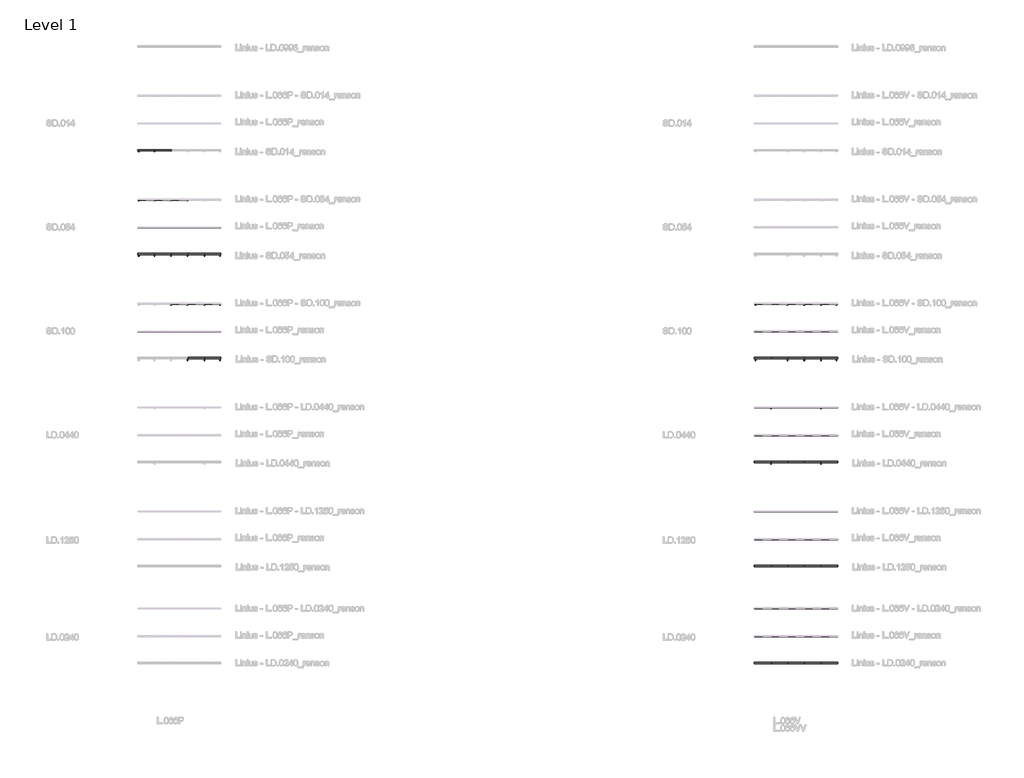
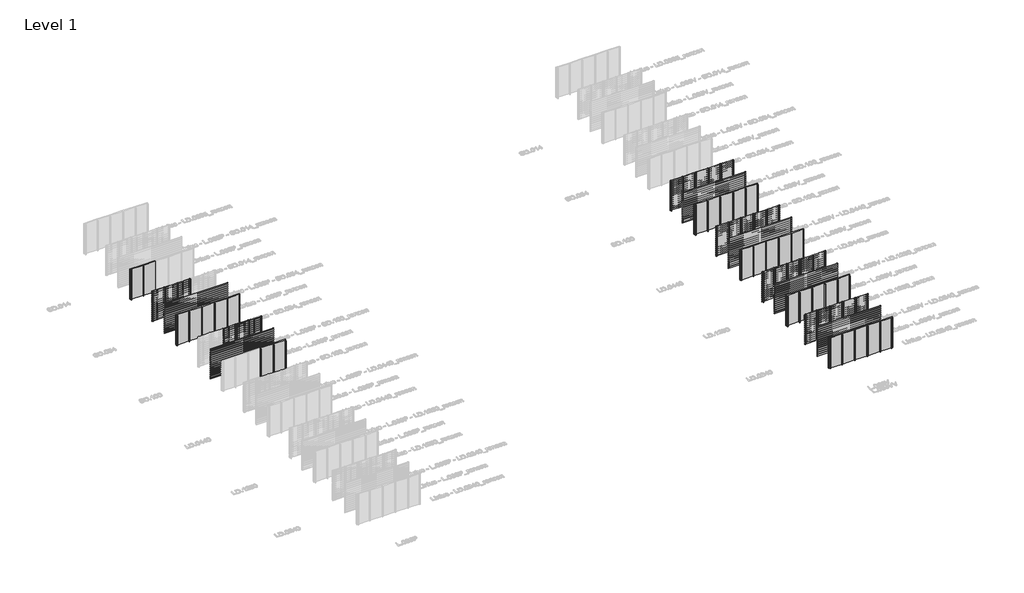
# One storey, part 7 of 540: 67 members, 61 plates.
"""IFC4 building model written with IfcOpenShell, lengths in millimetres."""

from ifc_helpers import new_model, si_unit, origin, origin_with_axes, place, context, project, spatial, polyline, outline, extrude, transform, mapped, element, save
from components import rectangular_mullion_3facce28, rectangular_mullion_6cf2c509, rectangular_mullion_8b77bd57, rectangular_mullion_2c867e25, rectangular_mullion_7803f5c4, rectangular_mullion_82152e2f, rectangular_mullion_2b84ad7e, rectangular_mullion_9b796d85, rectangular_mullion_dfb17e98, rectangular_mullion_6132f1f1, rectangular_mullion_8f153c19, rectangular_mullion_5b30f3fd, rectangular_mullion_5e0e8e0a, rectangular_mullion_d2d38772, rectangular_mullion_efb80f74, rectangular_mullion_aaa1fb1b, rectangular_mullion_ea9d012c, empty_system_panel_empty_aabbdda4

model = new_model("IFC4")

# Units and contexts
model_context = context("Model", 3, world=origin())
ifc_project = project(units=[si_unit("LENGTHUNIT", "METRE", prefix="MILLI")], contexts=[model_context])

# Site, building, storey
site = spatial("IfcSite", under=ifc_project)
building = spatial("IfcBuilding", under=site)
storey = spatial("IfcBuildingStorey", under=building, Name="Level 1", Elevation=0.0)

# Members
placement = place(None, origin())
rectangular_mullion_shape = rectangular_mullion_3facce28(model_context)
element("IfcMember", 1, ObjectType="Rectangular Mullion : SD.014_renson", at=placement, inside=storey, context=model_context, shape_type="MappedRepresentation", body=[
    mapped(rectangular_mullion_shape, transform((135166.6208099, 39983.0540136, 0.0), x_axis=(-1.0, 0.0, 0.0), y_axis=(0.0, 1.0, 0.0), z_axis=(0.0, 0.0, -1.0))),
])
rectangular_mullion_2_shape = rectangular_mullion_6cf2c509(model_context)
element("IfcMember", 2, ObjectType="Rectangular Mullion : SD.054_renson", at=placement, inside=storey, context=model_context, shape_type="MappedRepresentation", body=[
    mapped(rectangular_mullion_2_shape, transform((137566.6208096, 36483.0540136, 0.0), x_axis=(-1.0, 0.0, 0.0), y_axis=(0.0, 1.0, 0.0), z_axis=(0.0, 0.0, -1.0))),
])
element("IfcMember", 3, ObjectType="Rectangular Mullion : SD.054_renson", at=placement, inside=storey, context=model_context, shape_type="MappedRepresentation", body=[
    mapped(rectangular_mullion_2_shape, transform((136366.6208097, 36483.0540136, 0.0), x_axis=(-1.0, 0.0, 0.0), y_axis=(0.0, 1.0, 0.0), z_axis=(0.0, 0.0, -1.0))),
])
element("IfcMember", 4, ObjectType="Rectangular Mullion : SD.054_renson", at=placement, inside=storey, context=model_context, shape_type="MappedRepresentation", body=[
    mapped(rectangular_mullion_2_shape, transform((135166.6208099, 36483.0540136, 0.0), x_axis=(-1.0, 0.0, 0.0), y_axis=(0.0, 1.0, 0.0), z_axis=(0.0, 0.0, -1.0))),
])
element("IfcMember", 5, ObjectType="Rectangular Mullion : SD.054_renson", at=placement, inside=storey, context=model_context, shape_type="MappedRepresentation", body=[
    mapped(rectangular_mullion_2_shape, transform((138766.6208095, 32483.0540136, 0.0), x_axis=(-1.0, 0.0, 0.0), y_axis=(0.0, 1.0, 0.0), z_axis=(0.0, 0.0, -1.0))),
])
element("IfcMember", 6, ObjectType="Rectangular Mullion : SD.054_renson", at=placement, inside=storey, context=model_context, shape_type="MappedRepresentation", body=[
    mapped(rectangular_mullion_2_shape, transform((137566.6208096, 32483.0540136, 0.0), x_axis=(-1.0, 0.0, 0.0), y_axis=(0.0, 1.0, 0.0), z_axis=(0.0, 0.0, -1.0))),
])
element("IfcMember", 7, ObjectType="Rectangular Mullion : SD.054_renson", at=placement, inside=storey, context=model_context, shape_type="MappedRepresentation", body=[
    mapped(rectangular_mullion_2_shape, transform((136366.6208097, 32483.0540136, 0.0), x_axis=(-1.0, 0.0, 0.0), y_axis=(0.0, 1.0, 0.0), z_axis=(0.0, 0.0, -1.0))),
])
element("IfcMember", 8, ObjectType="Rectangular Mullion : SD.054_renson", at=placement, inside=storey, context=model_context, shape_type="MappedRepresentation", body=[
    mapped(rectangular_mullion_2_shape, transform((135166.6208099, 32483.0540136, 0.0), x_axis=(-1.0, 0.0, 0.0), y_axis=(0.0, 1.0, 0.0), z_axis=(0.0, 0.0, -1.0))),
])
rectangular_mullion_3_shape = rectangular_mullion_8b77bd57(model_context)
element("IfcMember", 9, ObjectType="Rectangular Mullion : SD.100_renson", at=placement, inside=storey, context=model_context, shape_type="MappedRepresentation", body=[
    mapped(rectangular_mullion_3_shape, transform((138766.6208095, 28983.0540136, 0.0), x_axis=(-1.0, 0.0, 0.0), y_axis=(0.0, 1.0, 0.0), z_axis=(0.0, 0.0, -1.0))),
])
element("IfcMember", 10, ObjectType="Rectangular Mullion : SD.100_renson", at=placement, inside=storey, context=model_context, shape_type="MappedRepresentation", body=[
    mapped(rectangular_mullion_3_shape, transform((137566.6208096, 28983.0540136, 0.0), x_axis=(-1.0, 0.0, 0.0), y_axis=(0.0, 1.0, 0.0), z_axis=(0.0, 0.0, -1.0))),
])
element("IfcMember", 11, ObjectType="Rectangular Mullion : SD.100_renson", at=placement, inside=storey, context=model_context, shape_type="MappedRepresentation", body=[
    mapped(rectangular_mullion_3_shape, transform((136366.6208097, 28983.0540136, 0.0), x_axis=(-1.0, 0.0, 0.0), y_axis=(0.0, 1.0, 0.0), z_axis=(0.0, 0.0, -1.0))),
])
element("IfcMember", 12, ObjectType="Rectangular Mullion : SD.100_renson", at=placement, inside=storey, context=model_context, shape_type="MappedRepresentation", body=[
    mapped(rectangular_mullion_3_shape, transform((138766.6208095, 24983.0540136, 0.0), x_axis=(-1.0, 0.0, 0.0), y_axis=(0.0, 1.0, 0.0), z_axis=(0.0, 0.0, -1.0))),
])
element("IfcMember", 13, ObjectType="Rectangular Mullion : SD.100_renson", at=placement, inside=storey, context=model_context, shape_type="MappedRepresentation", body=[
    mapped(rectangular_mullion_3_shape, transform((137566.6208096, 24983.0540136, 0.0), x_axis=(-1.0, 0.0, 0.0), y_axis=(0.0, 1.0, 0.0), z_axis=(0.0, 0.0, -1.0))),
])
element("IfcMember", 14, ObjectType="Rectangular Mullion : SD.100_renson", at=placement, inside=storey, context=model_context, shape_type="MappedRepresentation", body=[
    mapped(rectangular_mullion_3_shape, transform((182066.6208096, 28983.0540136, 0.0), x_axis=(-1.0, 0.0, 0.0), y_axis=(0.0, 1.0, 0.0), z_axis=(0.0, 0.0, -1.0))),
])
element("IfcMember", 15, ObjectType="Rectangular Mullion : SD.100_renson", at=placement, inside=storey, context=model_context, shape_type="MappedRepresentation", body=[
    mapped(rectangular_mullion_3_shape, transform((180866.6208097, 28983.0540136, 0.0), x_axis=(-1.0, 0.0, 0.0), y_axis=(0.0, 1.0, 0.0), z_axis=(0.0, 0.0, -1.0))),
])
element("IfcMember", 16, ObjectType="Rectangular Mullion : SD.100_renson", at=placement, inside=storey, context=model_context, shape_type="MappedRepresentation", body=[
    mapped(rectangular_mullion_3_shape, transform((179666.6208099, 28983.0540136, 0.0), x_axis=(-1.0, 0.0, 0.0), y_axis=(0.0, 1.0, 0.0), z_axis=(0.0, 0.0, -1.0))),
])
element("IfcMember", 17, ObjectType="Rectangular Mullion : SD.100_renson", at=placement, inside=storey, context=model_context, shape_type="MappedRepresentation", body=[
    mapped(rectangular_mullion_3_shape, transform((183266.6208095, 24983.0540136, 0.0), x_axis=(-1.0, 0.0, 0.0), y_axis=(0.0, 1.0, 0.0), z_axis=(0.0, 0.0, -1.0))),
])
element("IfcMember", 18, ObjectType="Rectangular Mullion : SD.100_renson", at=placement, inside=storey, context=model_context, shape_type="MappedRepresentation", body=[
    mapped(rectangular_mullion_3_shape, transform((182066.6208096, 24983.0540136, 0.0), x_axis=(-1.0, 0.0, 0.0), y_axis=(0.0, 1.0, 0.0), z_axis=(0.0, 0.0, -1.0))),
])
element("IfcMember", 19, ObjectType="Rectangular Mullion : SD.100_renson", at=placement, inside=storey, context=model_context, shape_type="MappedRepresentation", body=[
    mapped(rectangular_mullion_3_shape, transform((180866.6208097, 24983.0540136, 0.0), x_axis=(-1.0, 0.0, 0.0), y_axis=(0.0, 1.0, 0.0), z_axis=(0.0, 0.0, -1.0))),
])
element("IfcMember", 20, ObjectType="Rectangular Mullion : SD.100_renson", at=placement, inside=storey, context=model_context, shape_type="MappedRepresentation", body=[
    mapped(rectangular_mullion_3_shape, transform((179666.6208099, 24983.0540136, 0.0), x_axis=(-1.0, 0.0, 0.0), y_axis=(0.0, 1.0, 0.0), z_axis=(0.0, 0.0, -1.0))),
])
element("IfcMember", 21, ObjectType="Rectangular Mullion : SD.100_renson", at=placement, inside=storey, context=model_context, shape_type="MappedRepresentation", body=[
    mapped(rectangular_mullion_3_shape, transform((183266.6208095, 28983.0540136, 0.0), x_axis=(-1.0, 0.0, 0.0), y_axis=(0.0, 1.0, 0.0), z_axis=(0.0, 0.0, -1.0))),
])
rectangular_mullion_4_shape = rectangular_mullion_2c867e25(model_context)
element("IfcMember", 22, ObjectType="Rectangular Mullion : LD.0440_renson", at=placement, inside=storey, context=model_context, shape_type="MappedRepresentation", body=[
    mapped(rectangular_mullion_4_shape, transform((182066.6208096, 21483.0540136, 0.0), x_axis=(-1.0, 0.0, 0.0), y_axis=(0.0, 1.0, 0.0), z_axis=(0.0, 0.0, -1.0))),
])
element("IfcMember", 23, ObjectType="Rectangular Mullion : LD.0440_renson", at=placement, inside=storey, context=model_context, shape_type="MappedRepresentation", body=[
    mapped(rectangular_mullion_4_shape, transform((180866.6208097, 21483.0540136, 0.0), x_axis=(-1.0, 0.0, 0.0), y_axis=(0.0, 1.0, 0.0), z_axis=(0.0, 0.0, -1.0))),
])
element("IfcMember", 24, ObjectType="Rectangular Mullion : LD.0440_renson", at=placement, inside=storey, context=model_context, shape_type="MappedRepresentation", body=[
    mapped(rectangular_mullion_4_shape, transform((179666.6208099, 21483.0540136, 0.0), x_axis=(-1.0, 0.0, 0.0), y_axis=(0.0, 1.0, 0.0), z_axis=(0.0, 0.0, -1.0))),
])
element("IfcMember", 25, ObjectType="Rectangular Mullion : LD.0440_renson", at=placement, inside=storey, context=model_context, shape_type="MappedRepresentation", body=[
    mapped(rectangular_mullion_4_shape, transform((183266.6208095, 17483.0540136, 0.0), x_axis=(-1.0, 0.0, 0.0), y_axis=(0.0, 1.0, 0.0), z_axis=(0.0, 0.0, -1.0))),
])
element("IfcMember", 26, ObjectType="Rectangular Mullion : LD.0440_renson", at=placement, inside=storey, context=model_context, shape_type="MappedRepresentation", body=[
    mapped(rectangular_mullion_4_shape, transform((182066.6208096, 17483.0540136, 0.0), x_axis=(-1.0, 0.0, 0.0), y_axis=(0.0, 1.0, 0.0), z_axis=(0.0, 0.0, -1.0))),
])
element("IfcMember", 27, ObjectType="Rectangular Mullion : LD.0440_renson", at=placement, inside=storey, context=model_context, shape_type="MappedRepresentation", body=[
    mapped(rectangular_mullion_4_shape, transform((180866.6208097, 17483.0540136, 0.0), x_axis=(-1.0, 0.0, 0.0), y_axis=(0.0, 1.0, 0.0), z_axis=(0.0, 0.0, -1.0))),
])
element("IfcMember", 28, ObjectType="Rectangular Mullion : LD.0440_renson", at=placement, inside=storey, context=model_context, shape_type="MappedRepresentation", body=[
    mapped(rectangular_mullion_4_shape, transform((179666.6208099, 17483.0540136, 0.0), x_axis=(-1.0, 0.0, 0.0), y_axis=(0.0, 1.0, 0.0), z_axis=(0.0, 0.0, -1.0))),
])
element("IfcMember", 29, ObjectType="Rectangular Mullion : LD.0440_renson", at=placement, inside=storey, context=model_context, shape_type="MappedRepresentation", body=[
    mapped(rectangular_mullion_4_shape, transform((183266.6208095, 21483.0540136, 0.0), x_axis=(-1.0, 0.0, 0.0), y_axis=(0.0, 1.0, 0.0), z_axis=(0.0, 0.0, -1.0))),
])
rectangular_mullion_5_shape = rectangular_mullion_7803f5c4(model_context)
element("IfcMember", 30, ObjectType="Rectangular Mullion : LD.1250_renson", at=placement, inside=storey, context=model_context, shape_type="MappedRepresentation", body=[
    mapped(rectangular_mullion_5_shape, transform((182066.6208096, 13983.0540136, 0.0), x_axis=(-1.0, 0.0, 0.0), y_axis=(0.0, 1.0, 0.0), z_axis=(0.0, 0.0, -1.0))),
])
element("IfcMember", 31, ObjectType="Rectangular Mullion : LD.1250_renson", at=placement, inside=storey, context=model_context, shape_type="MappedRepresentation", body=[
    mapped(rectangular_mullion_5_shape, transform((180866.6208097, 13983.0540136, 0.0), x_axis=(-1.0, 0.0, 0.0), y_axis=(0.0, 1.0, 0.0), z_axis=(0.0, 0.0, -1.0))),
])
element("IfcMember", 32, ObjectType="Rectangular Mullion : LD.1250_renson", at=placement, inside=storey, context=model_context, shape_type="MappedRepresentation", body=[
    mapped(rectangular_mullion_5_shape, transform((179666.6208099, 13983.0540136, 0.0), x_axis=(-1.0, 0.0, 0.0), y_axis=(0.0, 1.0, 0.0), z_axis=(0.0, 0.0, -1.0))),
])
element("IfcMember", 33, ObjectType="Rectangular Mullion : LD.1250_renson", at=placement, inside=storey, context=model_context, shape_type="MappedRepresentation", body=[
    mapped(rectangular_mullion_5_shape, transform((183266.6208095, 9983.0540136, 0.0), x_axis=(-1.0, 0.0, 0.0), y_axis=(0.0, 1.0, 0.0), z_axis=(0.0, 0.0, -1.0))),
])
element("IfcMember", 34, ObjectType="Rectangular Mullion : LD.1250_renson", at=placement, inside=storey, context=model_context, shape_type="MappedRepresentation", body=[
    mapped(rectangular_mullion_5_shape, transform((182066.6208096, 9983.0540136, 0.0), x_axis=(-1.0, 0.0, 0.0), y_axis=(0.0, 1.0, 0.0), z_axis=(0.0, 0.0, -1.0))),
])
element("IfcMember", 35, ObjectType="Rectangular Mullion : LD.1250_renson", at=placement, inside=storey, context=model_context, shape_type="MappedRepresentation", body=[
    mapped(rectangular_mullion_5_shape, transform((180866.6208097, 9983.0540136, 0.0), x_axis=(-1.0, 0.0, 0.0), y_axis=(0.0, 1.0, 0.0), z_axis=(0.0, 0.0, -1.0))),
])
element("IfcMember", 36, ObjectType="Rectangular Mullion : LD.1250_renson", at=placement, inside=storey, context=model_context, shape_type="MappedRepresentation", body=[
    mapped(rectangular_mullion_5_shape, transform((179666.6208099, 9983.0540136, 0.0), x_axis=(-1.0, 0.0, 0.0), y_axis=(0.0, 1.0, 0.0), z_axis=(0.0, 0.0, -1.0))),
])
element("IfcMember", 37, ObjectType="Rectangular Mullion : LD.1250_renson", at=placement, inside=storey, context=model_context, shape_type="MappedRepresentation", body=[
    mapped(rectangular_mullion_5_shape, transform((183266.6208095, 13983.0540136, 0.0), x_axis=(-1.0, 0.0, 0.0), y_axis=(0.0, 1.0, 0.0), z_axis=(0.0, 0.0, -1.0))),
])
rectangular_mullion_6_shape = rectangular_mullion_82152e2f(model_context)
element("IfcMember", 38, ObjectType="Rectangular Mullion : LD.0240_renson", at=placement, inside=storey, context=model_context, shape_type="MappedRepresentation", body=[
    mapped(rectangular_mullion_6_shape, transform((182066.6208096, 6987.0270068, 0.0), x_axis=(-1.0, 0.0, 0.0), y_axis=(0.0, 1.0, 0.0), z_axis=(0.0, 0.0, -1.0))),
])
element("IfcMember", 39, ObjectType="Rectangular Mullion : LD.0240_renson", at=placement, inside=storey, context=model_context, shape_type="MappedRepresentation", body=[
    mapped(rectangular_mullion_6_shape, transform((180866.6208097, 6987.0270068, 0.0), x_axis=(-1.0, 0.0, 0.0), y_axis=(0.0, 1.0, 0.0), z_axis=(0.0, 0.0, -1.0))),
])
element("IfcMember", 40, ObjectType="Rectangular Mullion : LD.0240_renson", at=placement, inside=storey, context=model_context, shape_type="MappedRepresentation", body=[
    mapped(rectangular_mullion_6_shape, transform((179666.6208099, 6987.0270068, 0.0), x_axis=(-1.0, 0.0, 0.0), y_axis=(0.0, 1.0, 0.0), z_axis=(0.0, 0.0, -1.0))),
])
element("IfcMember", 41, ObjectType="Rectangular Mullion : LD.0240_renson", at=placement, inside=storey, context=model_context, shape_type="MappedRepresentation", body=[
    mapped(rectangular_mullion_6_shape, transform((183266.6208095, 2987.0270068, 0.0), x_axis=(-1.0, 0.0, 0.0), y_axis=(0.0, 1.0, 0.0), z_axis=(0.0, 0.0, -1.0))),
])
element("IfcMember", 42, ObjectType="Rectangular Mullion : LD.0240_renson", at=placement, inside=storey, context=model_context, shape_type="MappedRepresentation", body=[
    mapped(rectangular_mullion_6_shape, transform((182066.6208096, 2987.0270068, 0.0), x_axis=(-1.0, 0.0, 0.0), y_axis=(0.0, 1.0, 0.0), z_axis=(0.0, 0.0, -1.0))),
])
element("IfcMember", 43, ObjectType="Rectangular Mullion : LD.0240_renson", at=placement, inside=storey, context=model_context, shape_type="MappedRepresentation", body=[
    mapped(rectangular_mullion_6_shape, transform((180866.6208097, 2987.0270068, 0.0), x_axis=(-1.0, 0.0, 0.0), y_axis=(0.0, 1.0, 0.0), z_axis=(0.0, 0.0, -1.0))),
])
element("IfcMember", 44, ObjectType="Rectangular Mullion : LD.0240_renson", at=placement, inside=storey, context=model_context, shape_type="MappedRepresentation", body=[
    mapped(rectangular_mullion_6_shape, transform((179666.6208099, 2987.0270068, 0.0), x_axis=(-1.0, 0.0, 0.0), y_axis=(0.0, 1.0, 0.0), z_axis=(0.0, 0.0, -1.0))),
])
element("IfcMember", 45, ObjectType="Rectangular Mullion : LD.0240_renson", at=placement, inside=storey, context=model_context, shape_type="MappedRepresentation", body=[
    mapped(rectangular_mullion_6_shape, transform((183266.6208095, 6987.0270068, 0.0), x_axis=(-1.0, 0.0, 0.0), y_axis=(0.0, 1.0, 0.0), z_axis=(0.0, 0.0, -1.0))),
])
rectangular_mullion_7_shape = rectangular_mullion_2b84ad7e(model_context)
element("IfcMember", 46, ObjectType="Rectangular Mullion : SD.014 - left_renson", at=placement, inside=storey, context=model_context, shape_type="MappedRepresentation", body=[
    mapped(rectangular_mullion_7_shape, transform((133966.6208097, 39983.0540136, 0.0), x_axis=(-1.0, 0.0, 0.0), y_axis=(0.0, 1.0, 0.0), z_axis=(0.0, 0.0, -1.0))),
])
rectangular_mullion_8_shape = rectangular_mullion_9b796d85(model_context)
element("IfcMember", 47, ObjectType="Rectangular Mullion : SD.054 - left_renson", at=placement, inside=storey, context=model_context, shape_type="MappedRepresentation", body=[
    mapped(rectangular_mullion_8_shape, transform((133966.6208097, 36483.0540136, 0.0), x_axis=(-1.0, 0.0, 0.0), y_axis=(0.0, 1.0, 0.0), z_axis=(0.0, 0.0, -1.0))),
])
element("IfcMember", 48, ObjectType="Rectangular Mullion : SD.054 - left_renson", at=placement, inside=storey, context=model_context, shape_type="MappedRepresentation", body=[
    mapped(rectangular_mullion_8_shape, transform((133966.6208097, 32483.0540136, 0.0), x_axis=(-1.0, 0.0, 0.0), y_axis=(0.0, 1.0, 0.0), z_axis=(0.0, 0.0, -1.0))),
])
rectangular_mullion_9_shape = rectangular_mullion_dfb17e98(model_context)
element("IfcMember", 49, ObjectType="Rectangular Mullion : SD.054 - right_renson", at=placement, inside=storey, context=model_context, shape_type="MappedRepresentation", body=[
    mapped(rectangular_mullion_9_shape, transform((139966.6208097, 32483.0540136, 3000.0), x_axis=(1.0, 0.0, 0.0), y_axis=(0.0, 1.0, 0.0), z_axis=(0.0, 0.0, 1.0))),
])
rectangular_mullion_10_shape = rectangular_mullion_6132f1f1(model_context)
element("IfcMember", 50, ObjectType="Rectangular Mullion : SD.100 - left_renson", at=placement, inside=storey, context=model_context, shape_type="MappedRepresentation", body=[
    mapped(rectangular_mullion_10_shape, transform((178466.6208097, 28983.0540136, 0.0), x_axis=(-1.0, 0.0, 0.0), y_axis=(0.0, 1.0, 0.0), z_axis=(0.0, 0.0, -1.0))),
])
element("IfcMember", 51, ObjectType="Rectangular Mullion : SD.100 - left_renson", at=placement, inside=storey, context=model_context, shape_type="MappedRepresentation", body=[
    mapped(rectangular_mullion_10_shape, transform((178466.6208097, 24983.0540136, 0.0), x_axis=(-1.0, 0.0, 0.0), y_axis=(0.0, 1.0, 0.0), z_axis=(0.0, 0.0, -1.0))),
])
rectangular_mullion_11_shape = rectangular_mullion_8f153c19(model_context)
element("IfcMember", 52, ObjectType="Rectangular Mullion : SD.100 - right_renson", at=placement, inside=storey, context=model_context, shape_type="MappedRepresentation", body=[
    mapped(rectangular_mullion_11_shape, transform((139966.6208097, 28983.0540136, 3000.0), x_axis=(1.0, 0.0, 0.0), y_axis=(0.0, 1.0, 0.0), z_axis=(0.0, 0.0, 1.0))),
])
element("IfcMember", 53, ObjectType="Rectangular Mullion : SD.100 - right_renson", at=placement, inside=storey, context=model_context, shape_type="MappedRepresentation", body=[
    mapped(rectangular_mullion_11_shape, transform((139966.6208097, 24983.0540136, 3000.0), x_axis=(1.0, 0.0, 0.0), y_axis=(0.0, 1.0, 0.0), z_axis=(0.0, 0.0, 1.0))),
])
element("IfcMember", 54, ObjectType="Rectangular Mullion : SD.100 - right_renson", at=placement, inside=storey, context=model_context, shape_type="MappedRepresentation", body=[
    mapped(rectangular_mullion_11_shape, transform((184466.6208097, 28983.0540136, 3000.0), x_axis=(1.0, 0.0, 0.0), y_axis=(0.0, 1.0, 0.0), z_axis=(0.0, 0.0, 1.0))),
])
element("IfcMember", 55, ObjectType="Rectangular Mullion : SD.100 - right_renson", at=placement, inside=storey, context=model_context, shape_type="MappedRepresentation", body=[
    mapped(rectangular_mullion_11_shape, transform((184466.6208097, 24983.0540136, 3000.0), x_axis=(1.0, 0.0, 0.0), y_axis=(0.0, 1.0, 0.0), z_axis=(0.0, 0.0, 1.0))),
])
rectangular_mullion_12_shape = rectangular_mullion_5b30f3fd(model_context)
element("IfcMember", 56, ObjectType="Rectangular Mullion : LD.0440 - left_renson", at=placement, inside=storey, context=model_context, shape_type="MappedRepresentation", body=[
    mapped(rectangular_mullion_12_shape, transform((178466.6208097, 21483.0540136, 0.0), x_axis=(-1.0, 0.0, 0.0), y_axis=(0.0, 1.0, 0.0), z_axis=(0.0, 0.0, -1.0))),
])
element("IfcMember", 57, ObjectType="Rectangular Mullion : LD.0440 - left_renson", at=placement, inside=storey, context=model_context, shape_type="MappedRepresentation", body=[
    mapped(rectangular_mullion_12_shape, transform((178466.6208097, 17483.0540136, 0.0), x_axis=(-1.0, 0.0, 0.0), y_axis=(0.0, 1.0, 0.0), z_axis=(0.0, 0.0, -1.0))),
])
rectangular_mullion_13_shape = rectangular_mullion_5e0e8e0a(model_context)
element("IfcMember", 58, ObjectType="Rectangular Mullion : LD.0440 - right_renson", at=placement, inside=storey, context=model_context, shape_type="MappedRepresentation", body=[
    mapped(rectangular_mullion_13_shape, transform((184466.6208097, 21483.0540136, 3000.0), x_axis=(1.0, 0.0, 0.0), y_axis=(0.0, 1.0, 0.0), z_axis=(0.0, 0.0, 1.0))),
])
element("IfcMember", 59, ObjectType="Rectangular Mullion : LD.0440 - right_renson", at=placement, inside=storey, context=model_context, shape_type="MappedRepresentation", body=[
    mapped(rectangular_mullion_13_shape, transform((184466.6208097, 17483.0540136, 3000.0), x_axis=(1.0, 0.0, 0.0), y_axis=(0.0, 1.0, 0.0), z_axis=(0.0, 0.0, 1.0))),
])
rectangular_mullion_14_shape = rectangular_mullion_d2d38772(model_context)
element("IfcMember", 60, ObjectType="Rectangular Mullion : LD.1250 - left_renson", at=placement, inside=storey, context=model_context, shape_type="MappedRepresentation", body=[
    mapped(rectangular_mullion_14_shape, transform((178466.6208097, 13983.0540136, 0.0), x_axis=(-1.0, 0.0, 0.0), y_axis=(0.0, 1.0, 0.0), z_axis=(0.0, 0.0, -1.0))),
])
element("IfcMember", 61, ObjectType="Rectangular Mullion : LD.1250 - left_renson", at=placement, inside=storey, context=model_context, shape_type="MappedRepresentation", body=[
    mapped(rectangular_mullion_14_shape, transform((178466.6208097, 9983.0540136, 0.0), x_axis=(-1.0, 0.0, 0.0), y_axis=(0.0, 1.0, 0.0), z_axis=(0.0, 0.0, -1.0))),
])
rectangular_mullion_15_shape = rectangular_mullion_efb80f74(model_context)
element("IfcMember", 62, ObjectType="Rectangular Mullion : LD.1250 - right_renson", at=placement, inside=storey, context=model_context, shape_type="MappedRepresentation", body=[
    mapped(rectangular_mullion_15_shape, transform((184466.6208097, 13983.0540136, 3000.0), x_axis=(1.0, 0.0, 0.0), y_axis=(0.0, 1.0, 0.0), z_axis=(0.0, 0.0, 1.0))),
])
element("IfcMember", 63, ObjectType="Rectangular Mullion : LD.1250 - right_renson", at=placement, inside=storey, context=model_context, shape_type="MappedRepresentation", body=[
    mapped(rectangular_mullion_15_shape, transform((184466.6208097, 9983.0540136, 3000.0), x_axis=(1.0, 0.0, 0.0), y_axis=(0.0, 1.0, 0.0), z_axis=(0.0, 0.0, 1.0))),
])
rectangular_mullion_16_shape = rectangular_mullion_aaa1fb1b(model_context)
element("IfcMember", 64, ObjectType="Rectangular Mullion : LD.0240 - left_renson", at=placement, inside=storey, context=model_context, shape_type="MappedRepresentation", body=[
    mapped(rectangular_mullion_16_shape, transform((178466.6208097, 6987.0270068, 0.0), x_axis=(-1.0, 0.0, 0.0), y_axis=(0.0, 1.0, 0.0), z_axis=(0.0, 0.0, -1.0))),
])
element("IfcMember", 65, ObjectType="Rectangular Mullion : LD.0240 - left_renson", at=placement, inside=storey, context=model_context, shape_type="MappedRepresentation", body=[
    mapped(rectangular_mullion_16_shape, transform((178466.6208097, 2987.0270068, 0.0), x_axis=(-1.0, 0.0, 0.0), y_axis=(0.0, 1.0, 0.0), z_axis=(0.0, 0.0, -1.0))),
])
rectangular_mullion_17_shape = rectangular_mullion_ea9d012c(model_context)
element("IfcMember", 66, ObjectType="Rectangular Mullion : LD.0240 - right_renson", at=placement, inside=storey, context=model_context, shape_type="MappedRepresentation", body=[
    mapped(rectangular_mullion_17_shape, transform((184466.6208097, 6987.0270068, 3000.0), x_axis=(1.0, 0.0, 0.0), y_axis=(0.0, 1.0, 0.0), z_axis=(0.0, 0.0, 1.0))),
])
element("IfcMember", 67, ObjectType="Rectangular Mullion : LD.0240 - right_renson", at=placement, inside=storey, context=model_context, shape_type="MappedRepresentation", body=[
    mapped(rectangular_mullion_17_shape, transform((184466.6208097, 2987.0270068, 3000.0), x_axis=(1.0, 0.0, 0.0), y_axis=(0.0, 1.0, 0.0), z_axis=(0.0, 0.0, 1.0))),
])

# Plates
element("IfcPlate", 68, ObjectType="Linius - L.066P_renson", at=placement, inside=storey, context=model_context, shape_type="SweptSolid", body=[
    extrude(outline(polyline([(133966.6208097, 36484.0540136), (135166.6208099, 36484.0540136), (135166.6208099, 36482.0540136), (133966.6208097, 36482.0540136), (133966.6208097, 36484.0540136)])), origin_with_axes(), (0.0, 0.0, 1.0), 3000.0),
])
element("IfcPlate", 69, ObjectType="Linius - L.066P_renson", at=placement, inside=storey, context=model_context, shape_type="SweptSolid", body=[
    extrude(outline(polyline([(135166.6208099, 36484.0540136), (136366.6208097, 36484.0540136), (136366.6208097, 36482.0540136), (135166.6208099, 36482.0540136), (135166.6208099, 36484.0540136)])), origin_with_axes(), (0.0, 0.0, 1.0), 3000.0),
])
element("IfcPlate", 70, ObjectType="Linius - L.066P_renson", at=placement, inside=storey, context=model_context, shape_type="SweptSolid", body=[
    extrude(outline(polyline([(136366.6208097, 36484.0540136), (137566.6208096, 36484.0540136), (137566.6208096, 36482.0540136), (136366.6208097, 36482.0540136), (136366.6208097, 36484.0540136)])), origin_with_axes(), (0.0, 0.0, 1.0), 3000.0),
])
element("IfcPlate", 71, ObjectType="Linius - L.066P_renson", at=placement, inside=storey, context=model_context, shape_type="SweptSolid", body=[
    extrude(outline(polyline([(133966.6208097, 34484.0540136), (139966.6208097, 34484.0540136), (139966.6208097, 34482.0540136), (133966.6208097, 34482.0540136), (133966.6208097, 34484.0540136)])), origin_with_axes(), (0.0, 0.0, 1.0), 3000.0),
])
element("IfcPlate", 72, ObjectType="Linius - L.066P_renson", at=placement, inside=storey, context=model_context, shape_type="SweptSolid", body=[
    extrude(outline(polyline([(136366.6208097, 28984.0540136), (137566.6208096, 28984.0540136), (137566.6208096, 28982.0540136), (136366.6208097, 28982.0540136), (136366.6208097, 28984.0540136)])), origin_with_axes(), (0.0, 0.0, 1.0), 3000.0),
])
element("IfcPlate", 73, ObjectType="Linius - L.066P_renson", at=placement, inside=storey, context=model_context, shape_type="SweptSolid", body=[
    extrude(outline(polyline([(137566.6208096, 28984.0540136), (138766.6208095, 28984.0540136), (138766.6208095, 28982.0540136), (137566.6208096, 28982.0540136), (137566.6208096, 28984.0540136)])), origin_with_axes(), (0.0, 0.0, 1.0), 3000.0),
])
element("IfcPlate", 74, ObjectType="Linius - L.066P_renson", at=placement, inside=storey, context=model_context, shape_type="SweptSolid", body=[
    extrude(outline(polyline([(133966.6208097, 26984.0540136), (139966.6208097, 26984.0540136), (139966.6208097, 26982.0540136), (133966.6208097, 26982.0540136), (133966.6208097, 26984.0540136)])), origin_with_axes(), (0.0, 0.0, 1.0), 3000.0),
])
element("IfcPlate", 75, ObjectType="Linius - L.066P_renson", at=placement, inside=storey, context=model_context, shape_type="SweptSolid", body=[
    extrude(outline(polyline([(138766.6208095, 28984.0540136), (139966.6208097, 28984.0540136), (139966.6208097, 28982.0540136), (138766.6208095, 28982.0540136), (138766.6208095, 28984.0540136)])), origin_with_axes(), (0.0, 0.0, 1.0), 3000.0),
])
element("IfcPlate", 76, ObjectType="Linius - L.066V_renson", at=placement, inside=storey, context=model_context, shape_type="SweptSolid", body=[
    extrude(outline(polyline([(178466.6208097, 28984.0540136), (179666.6208099, 28984.0540136), (179666.6208099, 28982.0540136), (178466.6208097, 28982.0540136), (178466.6208097, 28984.0540136)])), origin_with_axes(), (0.0, 0.0, 1.0), 3000.0),
])
element("IfcPlate", 77, ObjectType="Linius - L.066V_renson", at=placement, inside=storey, context=model_context, shape_type="SweptSolid", body=[
    extrude(outline(polyline([(179666.6208099, 28984.0540136), (180866.6208097, 28984.0540136), (180866.6208097, 28982.0540136), (179666.6208099, 28982.0540136), (179666.6208099, 28984.0540136)])), origin_with_axes(), (0.0, 0.0, 1.0), 3000.0),
])
element("IfcPlate", 78, ObjectType="Linius - L.066V_renson", at=placement, inside=storey, context=model_context, shape_type="SweptSolid", body=[
    extrude(outline(polyline([(180866.6208097, 28984.0540136), (182066.6208096, 28984.0540136), (182066.6208096, 28982.0540136), (180866.6208097, 28982.0540136), (180866.6208097, 28984.0540136)])), origin_with_axes(), (0.0, 0.0, 1.0), 3000.0),
])
element("IfcPlate", 79, ObjectType="Linius - L.066V_renson", at=placement, inside=storey, context=model_context, shape_type="SweptSolid", body=[
    extrude(outline(polyline([(183266.6208095, 28984.0540136), (184466.6208097, 28984.0540136), (184466.6208097, 28982.0540136), (183266.6208095, 28982.0540136), (183266.6208095, 28984.0540136)])), origin_with_axes(), (0.0, 0.0, 1.0), 3000.0),
])
element("IfcPlate", 80, ObjectType="Linius - L.066V_renson", at=placement, inside=storey, context=model_context, shape_type="SweptSolid", body=[
    extrude(outline(polyline([(178466.6208097, 26984.0540136), (184466.6208097, 26984.0540136), (184466.6208097, 26982.0540136), (178466.6208097, 26982.0540136), (178466.6208097, 26984.0540136)])), origin_with_axes(), (0.0, 0.0, 1.0), 3000.0),
])
element("IfcPlate", 81, ObjectType="Linius - L.066V_renson", at=placement, inside=storey, context=model_context, shape_type="SweptSolid", body=[
    extrude(outline(polyline([(178466.6208097, 21484.0540136), (179666.6208099, 21484.0540136), (179666.6208099, 21482.0540136), (178466.6208097, 21482.0540136), (178466.6208097, 21484.0540136)])), origin_with_axes(), (0.0, 0.0, 1.0), 3000.0),
])
element("IfcPlate", 82, ObjectType="Linius - L.066V_renson", at=placement, inside=storey, context=model_context, shape_type="SweptSolid", body=[
    extrude(outline(polyline([(179666.6208099, 21484.0540136), (180866.6208097, 21484.0540136), (180866.6208097, 21482.0540136), (179666.6208099, 21482.0540136), (179666.6208099, 21484.0540136)])), origin_with_axes(), (0.0, 0.0, 1.0), 3000.0),
])
element("IfcPlate", 83, ObjectType="Linius - L.066V_renson", at=placement, inside=storey, context=model_context, shape_type="SweptSolid", body=[
    extrude(outline(polyline([(180866.6208097, 21484.0540136), (182066.6208096, 21484.0540136), (182066.6208096, 21482.0540136), (180866.6208097, 21482.0540136), (180866.6208097, 21484.0540136)])), origin_with_axes(), (0.0, 0.0, 1.0), 3000.0),
])
element("IfcPlate", 84, ObjectType="Linius - L.066V_renson", at=placement, inside=storey, context=model_context, shape_type="SweptSolid", body=[
    extrude(outline(polyline([(183266.6208095, 21484.0540136), (184466.6208097, 21484.0540136), (184466.6208097, 21482.0540136), (183266.6208095, 21482.0540136), (183266.6208095, 21484.0540136)])), origin_with_axes(), (0.0, 0.0, 1.0), 3000.0),
])
element("IfcPlate", 85, ObjectType="Linius - L.066V_renson", at=placement, inside=storey, context=model_context, shape_type="SweptSolid", body=[
    extrude(outline(polyline([(178466.6208097, 19484.0540136), (184466.6208097, 19484.0540136), (184466.6208097, 19482.0540136), (178466.6208097, 19482.0540136), (178466.6208097, 19484.0540136)])), origin_with_axes(), (0.0, 0.0, 1.0), 3000.0),
])
element("IfcPlate", 86, ObjectType="Linius - L.066V_renson", at=placement, inside=storey, context=model_context, shape_type="SweptSolid", body=[
    extrude(outline(polyline([(178466.6208097, 13984.0540136), (179666.6208099, 13984.0540136), (179666.6208099, 13982.0540136), (178466.6208097, 13982.0540136), (178466.6208097, 13984.0540136)])), origin_with_axes(), (0.0, 0.0, 1.0), 3000.0),
])
element("IfcPlate", 87, ObjectType="Linius - L.066V_renson", at=placement, inside=storey, context=model_context, shape_type="SweptSolid", body=[
    extrude(outline(polyline([(179666.6208099, 13984.0540136), (180866.6208097, 13984.0540136), (180866.6208097, 13982.0540136), (179666.6208099, 13982.0540136), (179666.6208099, 13984.0540136)])), origin_with_axes(), (0.0, 0.0, 1.0), 3000.0),
])
element("IfcPlate", 88, ObjectType="Linius - L.066V_renson", at=placement, inside=storey, context=model_context, shape_type="SweptSolid", body=[
    extrude(outline(polyline([(180866.6208097, 13984.0540136), (182066.6208096, 13984.0540136), (182066.6208096, 13982.0540136), (180866.6208097, 13982.0540136), (180866.6208097, 13984.0540136)])), origin_with_axes(), (0.0, 0.0, 1.0), 3000.0),
])
element("IfcPlate", 89, ObjectType="Linius - L.066V_renson", at=placement, inside=storey, context=model_context, shape_type="SweptSolid", body=[
    extrude(outline(polyline([(183266.6208095, 13984.0540136), (184466.6208097, 13984.0540136), (184466.6208097, 13982.0540136), (183266.6208095, 13982.0540136), (183266.6208095, 13984.0540136)])), origin_with_axes(), (0.0, 0.0, 1.0), 3000.0),
])
element("IfcPlate", 90, ObjectType="Linius - L.066V_renson", at=placement, inside=storey, context=model_context, shape_type="SweptSolid", body=[
    extrude(outline(polyline([(178466.6208097, 11984.0540136), (184466.6208097, 11984.0540136), (184466.6208097, 11982.0540136), (178466.6208097, 11982.0540136), (178466.6208097, 11984.0540136)])), origin_with_axes(), (0.0, 0.0, 1.0), 3000.0),
])
element("IfcPlate", 91, ObjectType="Linius - L.066V_renson", at=placement, inside=storey, context=model_context, shape_type="SweptSolid", body=[
    extrude(outline(polyline([(178466.6208097, 6988.0270068), (179666.6208099, 6988.0270068), (179666.6208099, 6986.0270068), (178466.6208097, 6986.0270068), (178466.6208097, 6988.0270068)])), origin_with_axes(), (0.0, 0.0, 1.0), 3000.0),
])
element("IfcPlate", 92, ObjectType="Linius - L.066V_renson", at=placement, inside=storey, context=model_context, shape_type="SweptSolid", body=[
    extrude(outline(polyline([(179666.6208099, 6988.0270068), (180866.6208097, 6988.0270068), (180866.6208097, 6986.0270068), (179666.6208099, 6986.0270068), (179666.6208099, 6988.0270068)])), origin_with_axes(), (0.0, 0.0, 1.0), 3000.0),
])
element("IfcPlate", 93, ObjectType="Linius - L.066V_renson", at=placement, inside=storey, context=model_context, shape_type="SweptSolid", body=[
    extrude(outline(polyline([(180866.6208097, 6988.0270068), (182066.6208096, 6988.0270068), (182066.6208096, 6986.0270068), (180866.6208097, 6986.0270068), (180866.6208097, 6988.0270068)])), origin_with_axes(), (0.0, 0.0, 1.0), 3000.0),
])
element("IfcPlate", 94, ObjectType="Linius - L.066V_renson", at=placement, inside=storey, context=model_context, shape_type="SweptSolid", body=[
    extrude(outline(polyline([(183266.6208095, 6988.0270068), (184466.6208097, 6988.0270068), (184466.6208097, 6986.0270068), (183266.6208095, 6986.0270068), (183266.6208095, 6988.0270068)])), origin_with_axes(), (0.0, 0.0, 1.0), 3000.0),
])
element("IfcPlate", 95, ObjectType="Linius - L.066V_renson", at=placement, inside=storey, context=model_context, shape_type="SweptSolid", body=[
    extrude(outline(polyline([(178466.6208097, 4988.0270068), (184466.6208097, 4988.0270068), (184466.6208097, 4986.0270068), (178466.6208097, 4986.0270068), (178466.6208097, 4988.0270068)])), origin_with_axes(), (0.0, 0.0, 1.0), 3000.0),
])
element("IfcPlate", 96, ObjectType="Linius - L.066V_renson", at=placement, inside=storey, context=model_context, shape_type="SweptSolid", body=[
    extrude(outline(polyline([(182066.6208096, 6988.0270068), (183266.6208095, 6988.0270068), (183266.6208095, 6986.0270068), (182066.6208096, 6986.0270068), (182066.6208096, 6988.0270068)])), origin_with_axes(), (0.0, 0.0, 1.0), 3000.0),
])
element("IfcPlate", 97, ObjectType="Linius - L.066V_renson", at=placement, inside=storey, context=model_context, shape_type="SweptSolid", body=[
    extrude(outline(polyline([(182066.6208096, 21484.0540136), (183266.6208095, 21484.0540136), (183266.6208095, 21482.0540136), (182066.6208096, 21482.0540136), (182066.6208096, 21484.0540136)])), origin_with_axes(), (0.0, 0.0, 1.0), 3000.0),
])
element("IfcPlate", 98, ObjectType="Linius - L.066V_renson", at=placement, inside=storey, context=model_context, shape_type="SweptSolid", body=[
    extrude(outline(polyline([(182066.6208096, 13984.0540136), (183266.6208095, 13984.0540136), (183266.6208095, 13982.0540136), (182066.6208096, 13982.0540136), (182066.6208096, 13984.0540136)])), origin_with_axes(), (0.0, 0.0, 1.0), 3000.0),
])
element("IfcPlate", 99, ObjectType="Linius - L.066V_renson", at=placement, inside=storey, context=model_context, shape_type="SweptSolid", body=[
    extrude(outline(polyline([(182066.6208096, 28984.0540136), (183266.6208095, 28984.0540136), (183266.6208095, 28982.0540136), (182066.6208096, 28982.0540136), (182066.6208096, 28984.0540136)])), origin_with_axes(), (0.0, 0.0, 1.0), 3000.0),
])
empty_system_panel_empty_shape = empty_system_panel_empty_aabbdda4(model_context)
element("IfcPlate", 100, ObjectType="Empty System Panel : Empty", at=placement, inside=storey, context=model_context, shape_type="MappedRepresentation", body=[
    mapped(empty_system_panel_empty_shape, transform((139366.6208096, 32483.0540136, 0.0), x_axis=(-1.0, 0.0, 0.0), y_axis=(0.0, -1.0, 0.0), z_axis=(0.0, 0.0, 1.0))),
])
element("IfcPlate", 101, ObjectType="Empty System Panel : Empty", at=placement, inside=storey, context=model_context, shape_type="MappedRepresentation", body=[
    mapped(empty_system_panel_empty_shape, transform((139366.6208096, 24983.0540136, 0.0), x_axis=(-1.0, 0.0, 0.0), y_axis=(0.0, -1.0, 0.0), z_axis=(0.0, 0.0, 1.0))),
])
element("IfcPlate", 102, ObjectType="Empty System Panel : Empty", at=placement, inside=storey, context=model_context, shape_type="MappedRepresentation", body=[
    mapped(empty_system_panel_empty_shape, transform((135766.6208098, 39983.0540136, 0.0), x_axis=(-1.0, 0.0, 0.0), y_axis=(0.0, -1.0, 0.0), z_axis=(0.0, 0.0, 1.0))),
])
element("IfcPlate", 103, ObjectType="Empty System Panel : Empty", at=placement, inside=storey, context=model_context, shape_type="MappedRepresentation", body=[
    mapped(empty_system_panel_empty_shape, transform((134566.6208098, 39983.0540136, 0.0), x_axis=(-1.0, 0.0, 0.0), y_axis=(0.0, -1.0, 0.0), z_axis=(0.0, 0.0, 1.0))),
])
element("IfcPlate", 104, ObjectType="Empty System Panel : Empty", at=placement, inside=storey, context=model_context, shape_type="MappedRepresentation", body=[
    mapped(empty_system_panel_empty_shape, transform((138166.6208096, 32483.0540136, 0.0), x_axis=(-1.0, 0.0, 0.0), y_axis=(0.0, -1.0, 0.0), z_axis=(0.0, 0.0, 1.0))),
])
element("IfcPlate", 105, ObjectType="Empty System Panel : Empty", at=placement, inside=storey, context=model_context, shape_type="MappedRepresentation", body=[
    mapped(empty_system_panel_empty_shape, transform((136966.6208097, 32483.0540136, 0.0), x_axis=(-1.0, 0.0, 0.0), y_axis=(0.0, -1.0, 0.0), z_axis=(0.0, 0.0, 1.0))),
])
element("IfcPlate", 106, ObjectType="Empty System Panel : Empty", at=placement, inside=storey, context=model_context, shape_type="MappedRepresentation", body=[
    mapped(empty_system_panel_empty_shape, transform((135766.6208098, 32483.0540136, 0.0), x_axis=(-1.0, 0.0, 0.0), y_axis=(0.0, -1.0, 0.0), z_axis=(0.0, 0.0, 1.0))),
])
element("IfcPlate", 107, ObjectType="Empty System Panel : Empty", at=placement, inside=storey, context=model_context, shape_type="MappedRepresentation", body=[
    mapped(empty_system_panel_empty_shape, transform((134566.6208098, 32483.0540136, 0.0), x_axis=(-1.0, 0.0, 0.0), y_axis=(0.0, -1.0, 0.0), z_axis=(0.0, 0.0, 1.0))),
])
element("IfcPlate", 108, ObjectType="Empty System Panel : Empty", at=placement, inside=storey, context=model_context, shape_type="MappedRepresentation", body=[
    mapped(empty_system_panel_empty_shape, transform((138166.6208096, 24983.0540136, 0.0), x_axis=(-1.0, 0.0, 0.0), y_axis=(0.0, -1.0, 0.0), z_axis=(0.0, 0.0, 1.0))),
])
element("IfcPlate", 109, ObjectType="Empty System Panel : Empty", at=placement, inside=storey, context=model_context, shape_type="MappedRepresentation", body=[
    mapped(empty_system_panel_empty_shape, transform((183866.6208096, 24983.0540136, 0.0), x_axis=(-1.0, 0.0, 0.0), y_axis=(0.0, -1.0, 0.0), z_axis=(0.0, 0.0, 1.0))),
])
element("IfcPlate", 110, ObjectType="Empty System Panel : Empty", at=placement, inside=storey, context=model_context, shape_type="MappedRepresentation", body=[
    mapped(empty_system_panel_empty_shape, transform((183866.6208096, 17483.0540136, 0.0), x_axis=(-1.0, 0.0, 0.0), y_axis=(0.0, -1.0, 0.0), z_axis=(0.0, 0.0, 1.0))),
])
element("IfcPlate", 111, ObjectType="Empty System Panel : Empty", at=placement, inside=storey, context=model_context, shape_type="MappedRepresentation", body=[
    mapped(empty_system_panel_empty_shape, transform((183866.6208096, 9983.0540136, 0.0), x_axis=(-1.0, 0.0, 0.0), y_axis=(0.0, -1.0, 0.0), z_axis=(0.0, 0.0, 1.0))),
])
element("IfcPlate", 112, ObjectType="Empty System Panel : Empty", at=placement, inside=storey, context=model_context, shape_type="MappedRepresentation", body=[
    mapped(empty_system_panel_empty_shape, transform((183866.6208096, 2987.0270068, 0.0), x_axis=(-1.0, 0.0, 0.0), y_axis=(0.0, -1.0, 0.0), z_axis=(0.0, 0.0, 1.0))),
])
element("IfcPlate", 113, ObjectType="Empty System Panel : Empty", at=placement, inside=storey, context=model_context, shape_type="MappedRepresentation", body=[
    mapped(empty_system_panel_empty_shape, transform((182666.6208096, 24983.0540136, 0.0), x_axis=(-1.0, 0.0, 0.0), y_axis=(0.0, -1.0, 0.0), z_axis=(0.0, 0.0, 1.0))),
])
element("IfcPlate", 114, ObjectType="Empty System Panel : Empty", at=placement, inside=storey, context=model_context, shape_type="MappedRepresentation", body=[
    mapped(empty_system_panel_empty_shape, transform((181466.6208097, 24983.0540136, 0.0), x_axis=(-1.0, 0.0, 0.0), y_axis=(0.0, -1.0, 0.0), z_axis=(0.0, 0.0, 1.0))),
])
element("IfcPlate", 115, ObjectType="Empty System Panel : Empty", at=placement, inside=storey, context=model_context, shape_type="MappedRepresentation", body=[
    mapped(empty_system_panel_empty_shape, transform((180266.6208098, 24983.0540136, 0.0), x_axis=(-1.0, 0.0, 0.0), y_axis=(0.0, -1.0, 0.0), z_axis=(0.0, 0.0, 1.0))),
])
element("IfcPlate", 116, ObjectType="Empty System Panel : Empty", at=placement, inside=storey, context=model_context, shape_type="MappedRepresentation", body=[
    mapped(empty_system_panel_empty_shape, transform((179066.6208098, 24983.0540136, 0.0), x_axis=(-1.0, 0.0, 0.0), y_axis=(0.0, -1.0, 0.0), z_axis=(0.0, 0.0, 1.0))),
])
element("IfcPlate", 117, ObjectType="Empty System Panel : Empty", at=placement, inside=storey, context=model_context, shape_type="MappedRepresentation", body=[
    mapped(empty_system_panel_empty_shape, transform((182666.6208096, 17483.0540136, 0.0), x_axis=(-1.0, 0.0, 0.0), y_axis=(0.0, -1.0, 0.0), z_axis=(0.0, 0.0, 1.0))),
])
element("IfcPlate", 118, ObjectType="Empty System Panel : Empty", at=placement, inside=storey, context=model_context, shape_type="MappedRepresentation", body=[
    mapped(empty_system_panel_empty_shape, transform((181466.6208097, 17483.0540136, 0.0), x_axis=(-1.0, 0.0, 0.0), y_axis=(0.0, -1.0, 0.0), z_axis=(0.0, 0.0, 1.0))),
])
element("IfcPlate", 119, ObjectType="Empty System Panel : Empty", at=placement, inside=storey, context=model_context, shape_type="MappedRepresentation", body=[
    mapped(empty_system_panel_empty_shape, transform((180266.6208098, 17483.0540136, 0.0), x_axis=(-1.0, 0.0, 0.0), y_axis=(0.0, -1.0, 0.0), z_axis=(0.0, 0.0, 1.0))),
])
element("IfcPlate", 120, ObjectType="Empty System Panel : Empty", at=placement, inside=storey, context=model_context, shape_type="MappedRepresentation", body=[
    mapped(empty_system_panel_empty_shape, transform((179066.6208098, 17483.0540136, 0.0), x_axis=(-1.0, 0.0, 0.0), y_axis=(0.0, -1.0, 0.0), z_axis=(0.0, 0.0, 1.0))),
])
element("IfcPlate", 121, ObjectType="Empty System Panel : Empty", at=placement, inside=storey, context=model_context, shape_type="MappedRepresentation", body=[
    mapped(empty_system_panel_empty_shape, transform((182666.6208096, 9983.0540136, 0.0), x_axis=(-1.0, 0.0, 0.0), y_axis=(0.0, -1.0, 0.0), z_axis=(0.0, 0.0, 1.0))),
])
element("IfcPlate", 122, ObjectType="Empty System Panel : Empty", at=placement, inside=storey, context=model_context, shape_type="MappedRepresentation", body=[
    mapped(empty_system_panel_empty_shape, transform((181466.6208097, 9983.0540136, 0.0), x_axis=(-1.0, 0.0, 0.0), y_axis=(0.0, -1.0, 0.0), z_axis=(0.0, 0.0, 1.0))),
])
element("IfcPlate", 123, ObjectType="Empty System Panel : Empty", at=placement, inside=storey, context=model_context, shape_type="MappedRepresentation", body=[
    mapped(empty_system_panel_empty_shape, transform((180266.6208098, 9983.0540136, 0.0), x_axis=(-1.0, 0.0, 0.0), y_axis=(0.0, -1.0, 0.0), z_axis=(0.0, 0.0, 1.0))),
])
element("IfcPlate", 124, ObjectType="Empty System Panel : Empty", at=placement, inside=storey, context=model_context, shape_type="MappedRepresentation", body=[
    mapped(empty_system_panel_empty_shape, transform((179066.6208098, 9983.0540136, 0.0), x_axis=(-1.0, 0.0, 0.0), y_axis=(0.0, -1.0, 0.0), z_axis=(0.0, 0.0, 1.0))),
])
element("IfcPlate", 125, ObjectType="Empty System Panel : Empty", at=placement, inside=storey, context=model_context, shape_type="MappedRepresentation", body=[
    mapped(empty_system_panel_empty_shape, transform((182666.6208096, 2987.0270068, 0.0), x_axis=(-1.0, 0.0, 0.0), y_axis=(0.0, -1.0, 0.0), z_axis=(0.0, 0.0, 1.0))),
])
element("IfcPlate", 126, ObjectType="Empty System Panel : Empty", at=placement, inside=storey, context=model_context, shape_type="MappedRepresentation", body=[
    mapped(empty_system_panel_empty_shape, transform((181466.6208097, 2987.0270068, 0.0), x_axis=(-1.0, 0.0, 0.0), y_axis=(0.0, -1.0, 0.0), z_axis=(0.0, 0.0, 1.0))),
])
element("IfcPlate", 127, ObjectType="Empty System Panel : Empty", at=placement, inside=storey, context=model_context, shape_type="MappedRepresentation", body=[
    mapped(empty_system_panel_empty_shape, transform((180266.6208098, 2987.0270068, 0.0), x_axis=(-1.0, 0.0, 0.0), y_axis=(0.0, -1.0, 0.0), z_axis=(0.0, 0.0, 1.0))),
])
element("IfcPlate", 128, ObjectType="Empty System Panel : Empty", at=placement, inside=storey, context=model_context, shape_type="MappedRepresentation", body=[
    mapped(empty_system_panel_empty_shape, transform((179066.6208098, 2987.0270068, 0.0), x_axis=(-1.0, 0.0, 0.0), y_axis=(0.0, -1.0, 0.0), z_axis=(0.0, 0.0, 1.0))),
])

save(model, "model.ifc")
